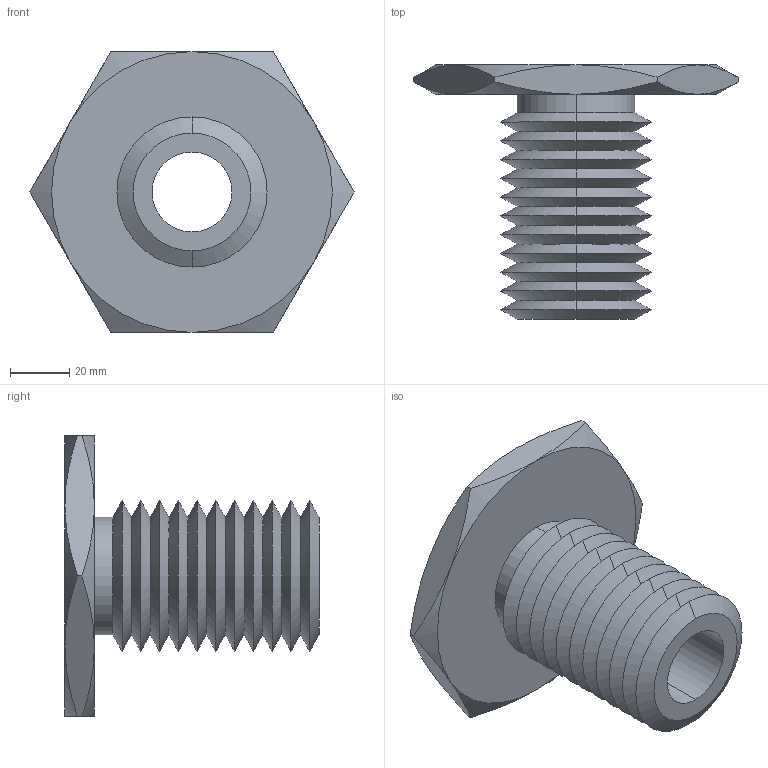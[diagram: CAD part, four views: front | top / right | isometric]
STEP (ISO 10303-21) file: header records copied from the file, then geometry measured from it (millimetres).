
FILE_DESCRIPTION (( 'STEP AP203' ), '1' );
FILE_NAME ('63302.W5200_M27x3.step', '2013-12-08T11:48:24', ( 'User' ), ( '' ), 'SwSTEP 2.0', 'SolidWorks 2009', '' );
FILE_SCHEMA (( 'CONFIG_CONTROL_DESIGN' ));
Length unit declared in the file: millimetre
Products named in the file (1): 63302.W5200_M27x3
Bounding box: 109.7 x 86 x 95 mm (x, y, z)
Volume: 147434.2 mm3; surface area: 44852.9 mm2
Topology: 1 solids, 1 shells, 71 faces, 146 edges, 78 vertices
Faces by surface type: cone 58, plane 9, cylinder 4
Entity records: 2071 total; most frequent: CARTESIAN_POINT 512, DIRECTION 332, ORIENTED_EDGE 292, EDGE_CURVE 146, AXIS2_PLACEMENT_3D 138, VERTEX_POINT 78, EDGE_LOOP 74, ADVANCED_FACE 71
